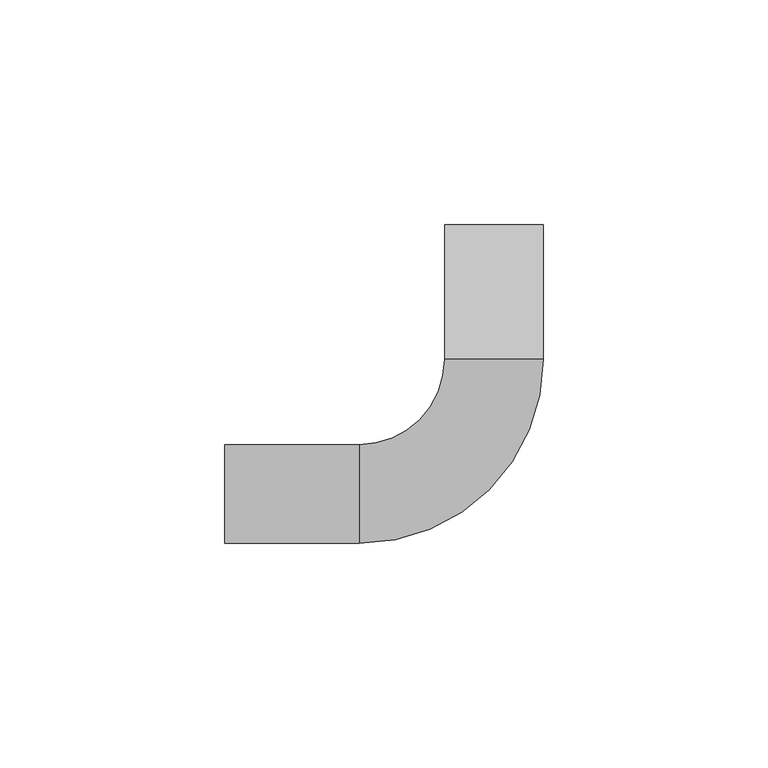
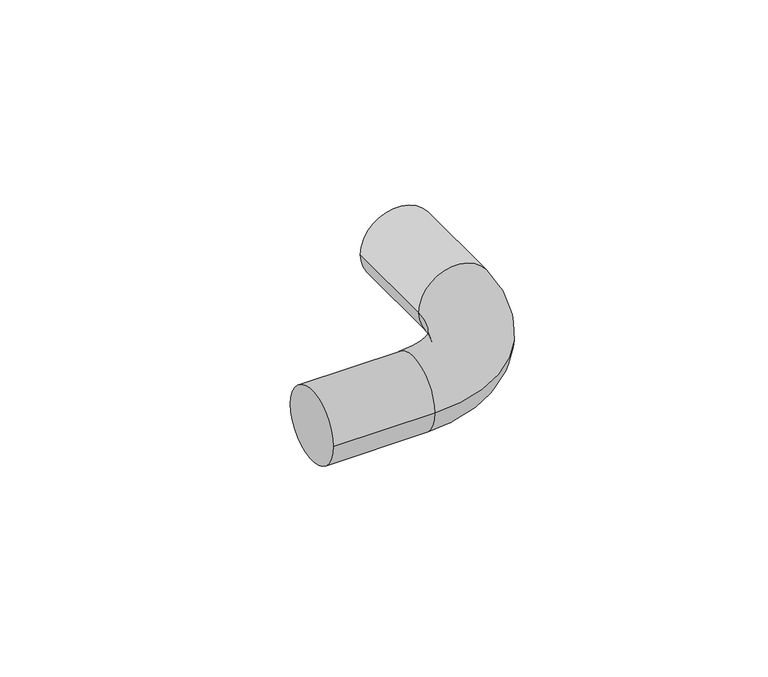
"""IFC4 building model written with IfcOpenShell, lengths in millimetres: cable carrier fitting geometry, Угол_90_соед._для_труб : Угол 90 соед. для трубы 20мм (50шт) серый."""

from ifc_helpers import new_model, si_unit, point, frame, origin, place, context, project, spatial, circle_curve, ellipse_curve, trimmed, source, transform, mapped, element, save
from ifc_brep_helpers import plane_surface, cylinder_surface, revolved_surface, advanced_brep


def cable_carrier_fitting_fce20a62(model_context):
    return source(origin(), model_context, "Body", "AdvancedBrep", [
        advanced_brep(
        [(-60.0, -11.0, 0.0), (-60.0, 11.0, 0.0), (-30.0, -11.0, 0.0), (-30.0, 11.0, 0.0), (-11.0, 30.0, 0.0), (11.0, 30.0, 0.0), (11.0, 60.0, 0.0), (-11.0, 60.0, 0.0)],
        [
            (0, 1, circle_curve(frame((-60.0, 0.0, 0.0), z_axis=(-1.0, 0.0, 0.0), x_axis=(0.0, 1.0, 0.0)), 11.0)),
            (1, 0, circle_curve(frame((-60.0, 0.0, 0.0), z_axis=(-1.0, 0.0, 0.0), x_axis=(0.0, 1.0, 0.0)), 11.0)),
            (0, 2),
            (2, 3, circle_curve(frame((-30.0, 0.0, 0.0), z_axis=(-1.0, 0.0, 0.0), x_axis=(0.0, 1.0, 0.0)), 11.0)),
            (3, 1),
            (3, 2, circle_curve(frame((-30.0, 0.0, 0.0), z_axis=(-1.0, 0.0, 0.0), x_axis=(0.0, 1.0, 0.0)), 11.0)),
            (4, 3, circle_curve(frame((-30.0, 30.0, 0.0), z_axis=(0.0, 0.0, -1.0), x_axis=(0.0, -1.0, 0.0)), 19.0)),
            (2, 5, circle_curve(frame((-30.0, 30.0, 0.0), z_axis=(0.0, 0.0, 1.0), x_axis=(0.0, -1.0, 0.0)), 41.0)),
            (5, 4, circle_curve(frame((0.0, 30.0, 0.0), z_axis=(0.0, -1.0, 0.0), x_axis=(-1.0, 0.0, 0.0)), 11.0)),
            (4, 5, circle_curve(frame((0.0, 30.0, 0.0), z_axis=(0.0, -1.0, 0.0), x_axis=(-1.0, 0.0, 0.0)), 11.0)),
            (6, 7, circle_curve(frame((0.0, 60.0, 0.0), z_axis=(0.0, 1.0, 0.0), x_axis=(-1.0, 0.0, 0.0)), 11.0)),
            (7, 6, circle_curve(frame((0.0, 60.0, 0.0), z_axis=(0.0, 1.0, 0.0), x_axis=(-1.0, 0.0, 0.0)), 11.0)),
            (5, 6),
            (7, 4),
        ],
        [
            plane_surface(frame((-60.0, 0.0, 0.0), z_axis=(-1.0, 0.0, 0.0), x_axis=(0.0, 0.0, 1.0))),
            cylinder_surface(frame((-60.0, 0.0, 0.0), z_axis=(-1.0, 0.0, 0.0), x_axis=(0.0, 1.0, 0.0)), 11.0),
            revolved_surface(trimmed(ellipse_curve(frame((-30.0, 0.0, 0.0), z_axis=(-1.0, 0.0, 0.0), x_axis=(0.0, 1.0, 0.0)), 11.0, 11.0), [point((-30.0, -11.0, 0.0))], [point((-30.0, 11.0, 0.0))], True, "CARTESIAN"), (-30.0, 30.0, 0.0), (0.0, 0.0, 1.0)),
            revolved_surface(trimmed(ellipse_curve(frame((-30.0, 0.0, 0.0), z_axis=(-1.0, 0.0, 0.0), x_axis=(0.0, 1.0, 0.0)), 11.0, 11.0), [point((-30.0, 11.0, 0.0))], [point((-30.0, -11.0, 0.0))], True, "CARTESIAN"), (-30.0, 30.0, 0.0), (0.0, 0.0, 1.0)),
            plane_surface(frame((0.0, 60.0, 0.0), z_axis=(0.0, 1.0, 0.0), x_axis=(0.0, 0.0, 1.0))),
            cylinder_surface(frame((0.0, 30.0, 0.0), z_axis=(0.0, -1.0, 0.0), x_axis=(-1.0, 0.0, 0.0)), 11.0),
        ],
        [
            (0, [[1, 2]]),
            (1, [[-1, 3, 4, 5]]),
            (1, [[-2, -5, 6, -3]]),
            (2, [[7, -4, 8, 9]]),
            (3, [[-8, -6, -7, 10]]),
            (4, [[11, 12]]),
            (5, [[-9, 13, -12, 14]]),
            (5, [[-10, -14, -11, -13]]),
        ],
    ),
    ])


if __name__ == "__main__":
    model = new_model("IFC4")
    model_context = context("Model", 3, world=origin())
    ifc_project = project(units=[si_unit("LENGTHUNIT", "METRE", prefix="MILLI")], contexts=[model_context])
    site = spatial("IfcSite", under=ifc_project)
    building = spatial("IfcBuilding", under=site)
    placement = place(None, origin())
    cable_carrier_fitting_shape = cable_carrier_fitting_fce20a62(model_context)
    element("IfcCableCarrierFitting", 1, ObjectType="Угол_90_соед._для_труб : Угол 90 соед. для трубы 20мм (50шт) серый", at=placement, inside=building, context=model_context, shape_type="MappedRepresentation", body=[
        mapped(cable_carrier_fitting_shape, transform((0.0, 0.0, 0.0), x_axis=(1.0, 0.0, 0.0), y_axis=(0.0, 1.0, 0.0), z_axis=(0.0, 0.0, 1.0))),
    ])
    save(model, "model.ifc")
